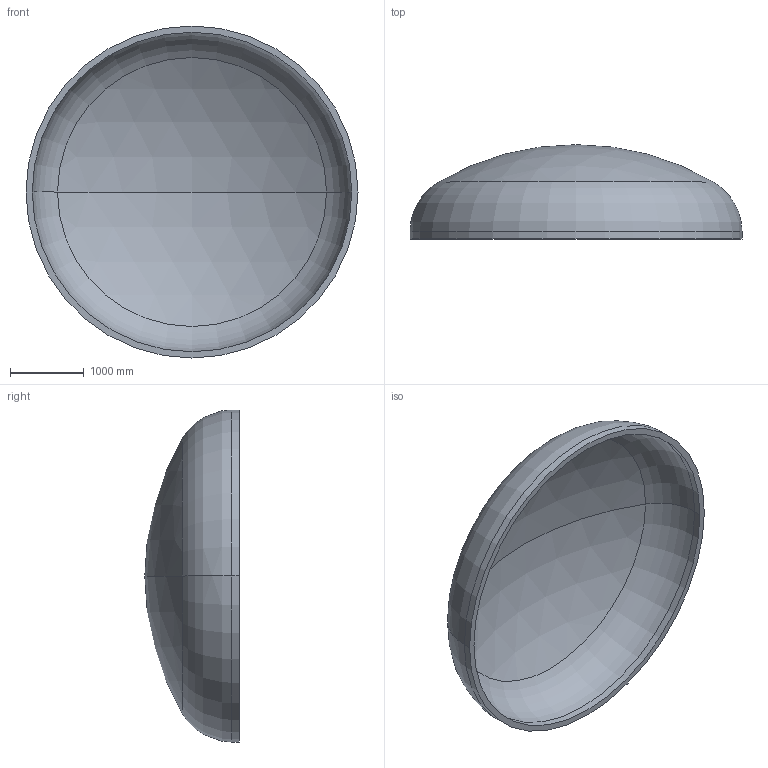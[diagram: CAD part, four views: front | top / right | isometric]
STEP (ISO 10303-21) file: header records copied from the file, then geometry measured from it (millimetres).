
FILE_DESCRIPTION (( 'STEP AP203' ), '1' );
FILE_NAME ('DIN 28013 Korbbogenform_-_Boden DIN 28013 - 4500 x 100 - I - s=84.step', '2016-07-01T23:45:04', ( '' ), ( '' ), 'SwSTEP 2.0', 'SolidWorks 2013', '' );
FILE_SCHEMA (( 'CONFIG_CONTROL_DESIGN' ));
Length unit declared in the file: millimetre
Products named in the file (1): DIN 28013 Korbbogenform_-_Boden DIN 28013 - 4500 x 100 - I - s=84
Bounding box: 4500 x 1278.97 x 4500 mm (x, y, z)
Volume: 1922900205.4 mm3; surface area: 46963454.7 mm2
Topology: 1 solids, 1 shells, 13 faces, 24 edges, 14 vertices
Faces by surface type: torus 4, cylinder 4, sphere 4, plane 1
Entity records: 407 total; most frequent: DIRECTION 72, CARTESIAN_POINT 52, ORIENTED_EDGE 48, AXIS2_PLACEMENT_3D 34, EDGE_CURVE 24, CIRCLE 20, EDGE_LOOP 14, VERTEX_POINT 14
